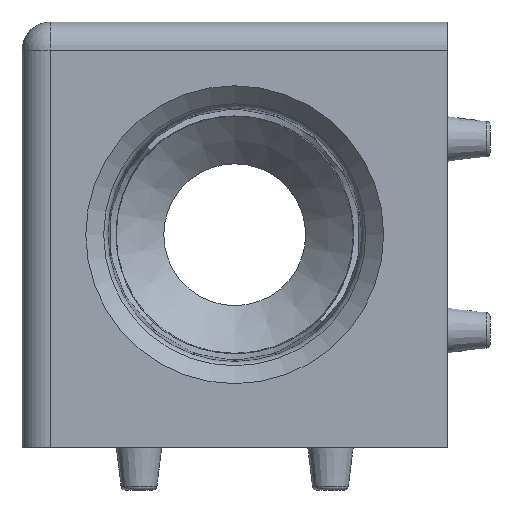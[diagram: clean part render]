
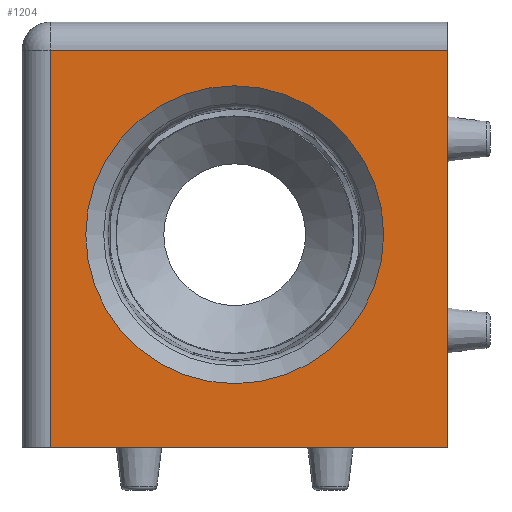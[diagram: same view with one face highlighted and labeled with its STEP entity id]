
A CAD part, front view. The second image highlights one B-rep face of the part: STEP entity #1204.
In plain terms, the highlighted planar face has unit normal (0, -1, 0).
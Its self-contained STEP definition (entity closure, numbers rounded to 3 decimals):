
#136=FACE_BOUND('',#273,.T.);
#184=FACE_OUTER_BOUND('',#272,.T.);
#272=EDGE_LOOP('',(#1060,#1061,#1062,#1063));
#273=EDGE_LOOP('',(#1064));
#326=CIRCLE('',#1285,10.5);
#429=LINE('',#2166,#498);
#438=LINE('',#2185,#507);
#442=LINE('',#2193,#511);
#443=LINE('',#2194,#512);
#498=VECTOR('',#1765,1000.);
#507=VECTOR('',#1780,1000.);
#511=VECTOR('',#1786,1000.);
#512=VECTOR('',#1787,1000.);
#555=VERTEX_POINT('',#1967);
#614=VERTEX_POINT('',#2163);
#615=VERTEX_POINT('',#2165);
#622=VERTEX_POINT('',#2183);
#625=VERTEX_POINT('',#2192);
#666=EDGE_CURVE('',#555,#555,#326,.T.);
#766=EDGE_CURVE('',#615,#614,#429,.T.);
#777=EDGE_CURVE('',#622,#614,#438,.T.);
#781=EDGE_CURVE('',#622,#625,#442,.T.);
#782=EDGE_CURVE('',#625,#615,#443,.T.);
#1060=ORIENTED_EDGE('',*,*,#777,.F.);
#1061=ORIENTED_EDGE('',*,*,#781,.T.);
#1062=ORIENTED_EDGE('',*,*,#782,.T.);
#1063=ORIENTED_EDGE('',*,*,#766,.T.);
#1064=ORIENTED_EDGE('',*,*,#666,.T.);
#1135=PLANE('',#1396);
#1204=ADVANCED_FACE('',(#184,#136),#1135,.F.);
#1285=AXIS2_PLACEMENT_3D('',#1969,#1520,#1521);
#1396=AXIS2_PLACEMENT_3D('',#2191,#1784,#1785);
#1520=DIRECTION('center_axis',(0.,1.,0.));
#1521=DIRECTION('ref_axis',(0.,0.,1.));
#1765=DIRECTION('',(1.,0.,0.));
#1780=DIRECTION('',(0.,0.,-1.));
#1784=DIRECTION('center_axis',(0.,1.,0.));
#1785=DIRECTION('ref_axis',(0.,0.,1.));
#1786=DIRECTION('',(-1.,0.,0.));
#1787=DIRECTION('',(0.,0.,-1.));
#1967=CARTESIAN_POINT('',(0.,-15.,10.5));
#1969=CARTESIAN_POINT('Origin',(0.,-15.,0.));
#2163=CARTESIAN_POINT('',(15.,-15.,-15.));
#2165=CARTESIAN_POINT('',(-13.,-15.,-15.));
#2166=CARTESIAN_POINT('',(-15.,-15.,-15.));
#2183=CARTESIAN_POINT('',(15.,-15.,13.));
#2185=CARTESIAN_POINT('',(15.,-15.,15.));
#2191=CARTESIAN_POINT('Origin',(-15.,-15.,15.));
#2192=CARTESIAN_POINT('',(-13.,-15.,13.));
#2193=CARTESIAN_POINT('',(-15.,-15.,13.));
#2194=CARTESIAN_POINT('',(-13.,-15.,15.));
